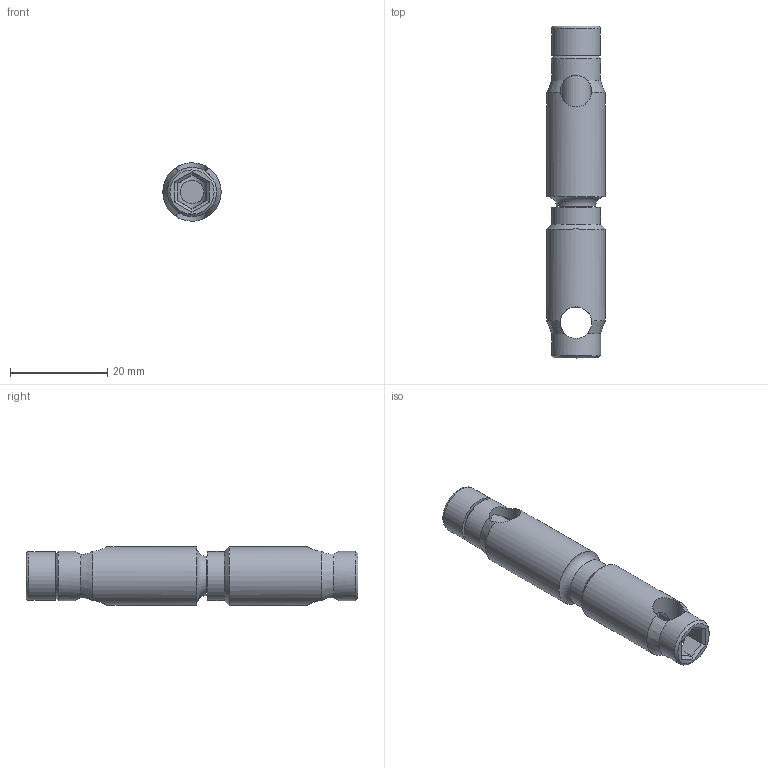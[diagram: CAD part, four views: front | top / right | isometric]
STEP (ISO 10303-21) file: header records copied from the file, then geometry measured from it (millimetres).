
FILE_DESCRIPTION(/* description */ ('STEP AP214'),/* implementation_level */ '2;1');
FILE_NAME(/* name */ 'C:\Users\aleas\Desktop\GCRFLM840.stp',/* time_stamp */ '2024-06-04T15:47:49+02:00',/* author */ ('aleas'),/* organization */ ('Hewlett-Packard Company'),/* preprocessor_version */ 'ST-DEVELOPER v19',/* originating_system */ 'Autodesk Inventor 2023',/* authorisation */ '');
FILE_SCHEMA (('AUTOMOTIVE_DESIGN { 1 0 10303 214 3 1 1 }'));
Length unit declared in the file: millimetre
Products named in the file (1): 099G081M6
Bounding box: 12 x 68.36 x 12 mm (x, y, z)
Volume: 5927.3 mm3; surface area: 5106.7 mm2
Topology: 3 solids, 3 shells, 161 faces, 417 edges, 262 vertices
Faces by surface type: plane 64, cone 57, cylinder 37, torus 3
Full cylindrical faces by diameter (mm): 4.8 x1, 6 x26, 6.5 x2, 7 x2, 10 x1, 10.1 x3, 12 x2
Entity records: 5715 total; most frequent: CARTESIAN_POINT 1439, DIRECTION 890, ORIENTED_EDGE 832, EDGE_CURVE 416, AXIS2_PLACEMENT_3D 341, VERTEX_POINT 262, LINE 208, VECTOR 208
